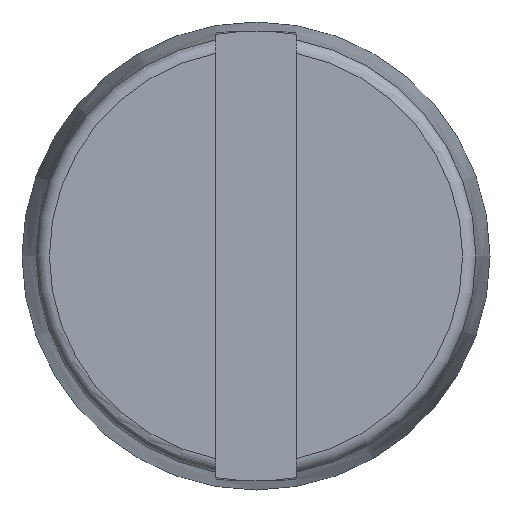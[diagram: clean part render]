
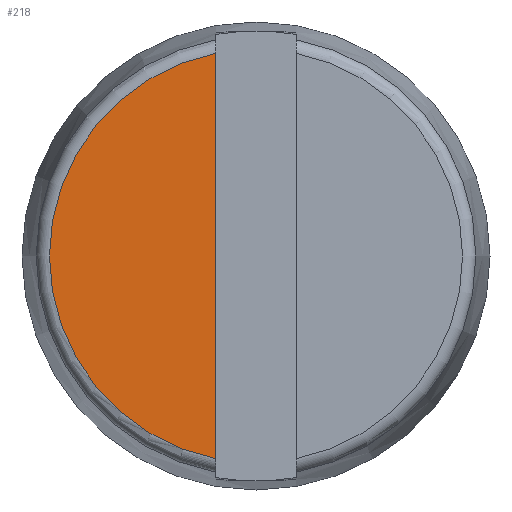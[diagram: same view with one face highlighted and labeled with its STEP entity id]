
A CAD part, left-side view. The second image highlights one B-rep face of the part: STEP entity #218.
In plain terms, the highlighted planar face has unit normal (-1, 0, 0).
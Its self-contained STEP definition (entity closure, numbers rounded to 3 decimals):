
#30=PLANE('',#261);
#41=FACE_OUTER_BOUND('',#55,.T.);
#55=EDGE_LOOP('',(#174,#175));
#68=LINE('',#411,#77);
#77=VECTOR('',#301,10.);
#88=CIRCLE('',#262,3.089);
#108=VERTEX_POINT('',#399);
#109=VERTEX_POINT('',#410);
#130=EDGE_CURVE('',#109,#108,#68,.T.);
#136=EDGE_CURVE('',#109,#108,#88,.T.);
#174=ORIENTED_EDGE('',*,*,#130,.T.);
#175=ORIENTED_EDGE('',*,*,#136,.F.);
#218=ADVANCED_FACE('',(#41),#30,.T.);
#261=AXIS2_PLACEMENT_3D('',#431,#309,#310);
#262=AXIS2_PLACEMENT_3D('',#432,#311,#312);
#301=DIRECTION('',(0.,0.,1.));
#309=DIRECTION('center_axis',(-1.,0.,0.));
#310=DIRECTION('ref_axis',(0.,0.,1.));
#311=DIRECTION('center_axis',(1.,0.,0.));
#312=DIRECTION('ref_axis',(0.,-1.,0.));
#399=CARTESIAN_POINT('',(-2.6,0.6,3.03));
#410=CARTESIAN_POINT('',(-2.6,0.6,-3.03));
#411=CARTESIAN_POINT('',(-2.6,0.6,0.));
#431=CARTESIAN_POINT('Origin',(-2.6,1.636,0.));
#432=CARTESIAN_POINT('Origin',(-2.6,0.,0.));
